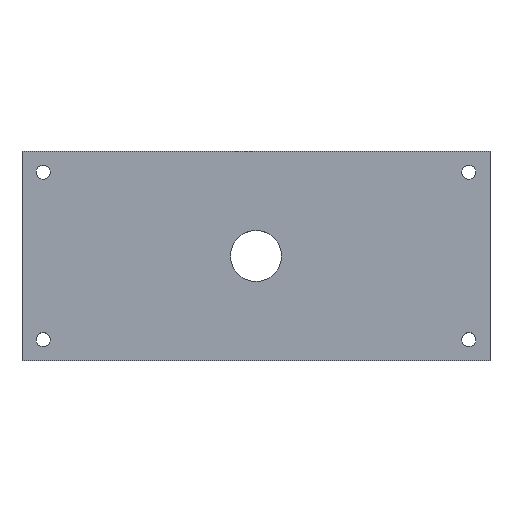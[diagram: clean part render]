
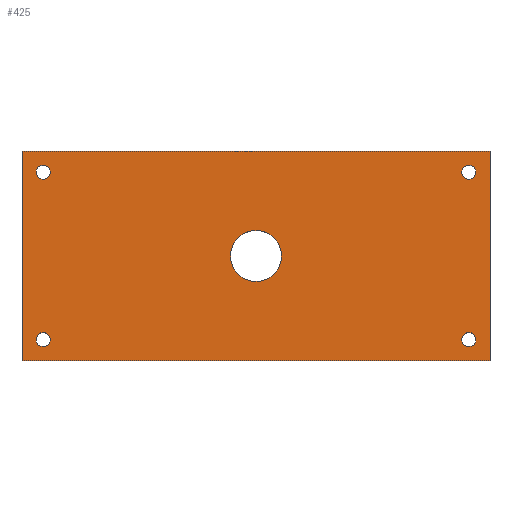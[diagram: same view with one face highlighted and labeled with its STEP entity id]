
A CAD part, top view. The second image highlights one B-rep face of the part: STEP entity #425.
In plain terms, the highlighted planar face has unit normal (0, 0, 1).
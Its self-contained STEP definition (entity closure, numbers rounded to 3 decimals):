
#3 = CARTESIAN_POINT ( 'NONE',  ( -13.341, 0., 2.5 ) ) ;
#7 = DIRECTION ( 'NONE',  ( 0., 0., 1. ) ) ;
#15 = CARTESIAN_POINT ( 'NONE',  ( 19.659, -14.75, 2.5 ) ) ;
#19 = EDGE_CURVE ( 'NONE', #450, #510, #560, .T. ) ;
#35 = CARTESIAN_POINT ( 'NONE',  ( 23.409, 18.5, 2.5 ) ) ;
#46 = DIRECTION ( 'NONE',  ( 0., 0., 1. ) ) ;
#52 = AXIS2_PLACEMENT_3D ( 'NONE', #563, #478, #85 ) ;
#54 = ORIENTED_EDGE ( 'NONE', *, *, #316, .T. ) ;
#56 = DIRECTION ( 'NONE',  ( 1., 0., 0. ) ) ;
#58 = CARTESIAN_POINT ( 'NONE',  ( -59.091, 18.5, 2.5 ) ) ;
#65 = EDGE_LOOP ( 'NONE', ( #127, #54, #598, #449 ) ) ;
#71 = CARTESIAN_POINT ( 'NONE',  ( 18.409, 14.75, 2.5 ) ) ;
#73 = ORIENTED_EDGE ( 'NONE', *, *, #525, .F. ) ;
#84 = VERTEX_POINT ( 'NONE', #236 ) ;
#85 = DIRECTION ( 'NONE',  ( 1., 0., 0. ) ) ;
#89 = DIRECTION ( 'NONE',  ( 0., 0., 1. ) ) ;
#97 = VECTOR ( 'NONE', #253, 1000. ) ;
#102 = EDGE_LOOP ( 'NONE', ( #528, #600 ) ) ;
#105 = CARTESIAN_POINT ( 'NONE',  ( -22.341, 0., 2.5 ) ) ;
#110 = EDGE_CURVE ( 'NONE', #486, #164, #157, .T. ) ;
#113 = CIRCLE ( 'NONE', #470, 1.25 ) ;
#116 = EDGE_LOOP ( 'NONE', ( #171, #284 ) ) ;
#122 = DIRECTION ( 'NONE',  ( 0., 0., 1. ) ) ;
#125 = CARTESIAN_POINT ( 'NONE',  ( -55.341, 14.75, 2.5 ) ) ;
#127 = ORIENTED_EDGE ( 'NONE', *, *, #110, .T. ) ;
#140 = AXIS2_PLACEMENT_3D ( 'NONE', #254, #576, #309 ) ;
#148 = EDGE_CURVE ( 'NONE', #510, #486, #441, .T. ) ;
#149 = CARTESIAN_POINT ( 'NONE',  ( -54.091, 14.75, 2.5 ) ) ;
#156 = CARTESIAN_POINT ( 'NONE',  ( 19.659, -14.75, 2.5 ) ) ;
#157 = LINE ( 'NONE', #58, #206 ) ;
#158 = DIRECTION ( 'NONE',  ( 1., 0., 0. ) ) ;
#164 = VERTEX_POINT ( 'NONE', #523 ) ;
#166 = CARTESIAN_POINT ( 'NONE',  ( -59.091, 18.5, 2.5 ) ) ;
#167 = EDGE_CURVE ( 'NONE', #496, #476, #296, .T. ) ;
#169 = EDGE_CURVE ( 'NONE', #173, #518, #587, .T. ) ;
#171 = ORIENTED_EDGE ( 'NONE', *, *, #434, .F. ) ;
#172 = VERTEX_POINT ( 'NONE', #300 ) ;
#173 = VERTEX_POINT ( 'NONE', #370 ) ;
#177 = DIRECTION ( 'NONE',  ( 1., 0., 0. ) ) ;
#184 = EDGE_LOOP ( 'NONE', ( #325, #202 ) ) ;
#187 = DIRECTION ( 'NONE',  ( -1., 0., 0. ) ) ;
#190 = AXIS2_PLACEMENT_3D ( 'NONE', #605, #218, #158 ) ;
#195 = FACE_BOUND ( 'NONE', #116, .T. ) ;
#197 = CARTESIAN_POINT ( 'NONE',  ( -17.841, 0., 2.5 ) ) ;
#199 = DIRECTION ( 'NONE',  ( 0., 0., 1. ) ) ;
#202 = ORIENTED_EDGE ( 'NONE', *, *, #169, .F. ) ;
#203 = ORIENTED_EDGE ( 'NONE', *, *, #304, .F. ) ;
#206 = VECTOR ( 'NONE', #593, 1000. ) ;
#207 = CARTESIAN_POINT ( 'NONE',  ( 18.409, -14.75, 2.5 ) ) ;
#212 = ORIENTED_EDGE ( 'NONE', *, *, #589, .F. ) ;
#218 = DIRECTION ( 'NONE',  ( 0., 0., 1. ) ) ;
#222 = AXIS2_PLACEMENT_3D ( 'NONE', #15, #349, #429 ) ;
#226 = EDGE_LOOP ( 'NONE', ( #436, #73 ) ) ;
#236 = CARTESIAN_POINT ( 'NONE',  ( 20.909, 14.75, 2.5 ) ) ;
#243 = VERTEX_POINT ( 'NONE', #149 ) ;
#247 = AXIS2_PLACEMENT_3D ( 'NONE', #541, #288, #56 ) ;
#251 = EDGE_CURVE ( 'NONE', #476, #496, #293, .T. ) ;
#253 = DIRECTION ( 'NONE',  ( 1., 0., 0. ) ) ;
#254 = CARTESIAN_POINT ( 'NONE',  ( 19.659, 14.75, 2.5 ) ) ;
#255 = DIRECTION ( 'NONE',  ( 1., 0., 0. ) ) ;
#266 = EDGE_CURVE ( 'NONE', #389, #84, #330, .T. ) ;
#267 = VECTOR ( 'NONE', #465, 1000. ) ;
#276 = VERTEX_POINT ( 'NONE', #586 ) ;
#284 = ORIENTED_EDGE ( 'NONE', *, *, #336, .F. ) ;
#288 = DIRECTION ( 'NONE',  ( 0., 0., 1. ) ) ;
#293 = CIRCLE ( 'NONE', #351, 4.5 ) ;
#296 = CIRCLE ( 'NONE', #190, 4.5 ) ;
#300 = CARTESIAN_POINT ( 'NONE',  ( -54.091, -14.75, 2.5 ) ) ;
#304 = EDGE_CURVE ( 'NONE', #172, #396, #113, .T. ) ;
#309 = DIRECTION ( 'NONE',  ( 1., 0., 0. ) ) ;
#311 = AXIS2_PLACEMENT_3D ( 'NONE', #339, #89, #505 ) ;
#315 = CARTESIAN_POINT ( 'NONE',  ( 19.659, 14.75, 2.5 ) ) ;
#316 = EDGE_CURVE ( 'NONE', #164, #450, #468, .T. ) ;
#325 = ORIENTED_EDGE ( 'NONE', *, *, #482, .F. ) ;
#326 = FACE_BOUND ( 'NONE', #102, .T. ) ;
#330 = CIRCLE ( 'NONE', #488, 1.25 ) ;
#336 = EDGE_CURVE ( 'NONE', #243, #276, #448, .T. ) ;
#338 = DIRECTION ( 'NONE',  ( 1., 0., 0. ) ) ;
#339 = CARTESIAN_POINT ( 'NONE',  ( -55.341, -14.75, 2.5 ) ) ;
#344 = CIRCLE ( 'NONE', #247, 1.25 ) ;
#349 = DIRECTION ( 'NONE',  ( 0., 0., 1. ) ) ;
#350 = FACE_OUTER_BOUND ( 'NONE', #65, .T. ) ;
#351 = AXIS2_PLACEMENT_3D ( 'NONE', #197, #7, #338 ) ;
#369 = CARTESIAN_POINT ( 'NONE',  ( 23.409, 18.5, 2.5 ) ) ;
#370 = CARTESIAN_POINT ( 'NONE',  ( 20.909, -14.75, 2.5 ) ) ;
#380 = FACE_BOUND ( 'NONE', #601, .T. ) ;
#389 = VERTEX_POINT ( 'NONE', #71 ) ;
#396 = VERTEX_POINT ( 'NONE', #423 ) ;
#399 = DIRECTION ( 'NONE',  ( 0., 0., 1. ) ) ;
#411 = CIRCLE ( 'NONE', #311, 1.25 ) ;
#423 = CARTESIAN_POINT ( 'NONE',  ( -56.591, -14.75, 2.5 ) ) ;
#425 = ADVANCED_FACE ( 'NONE', ( #507, #503, #350, #380, #195, #326 ), #544, .T. ) ;
#429 = DIRECTION ( 'NONE',  ( 1., 0., 0. ) ) ;
#434 = EDGE_CURVE ( 'NONE', #276, #243, #344, .T. ) ;
#436 = ORIENTED_EDGE ( 'NONE', *, *, #266, .F. ) ;
#439 = CARTESIAN_POINT ( 'NONE',  ( 23.409, -18.5, 2.5 ) ) ;
#441 = LINE ( 'NONE', #166, #461 ) ;
#448 = CIRCLE ( 'NONE', #492, 1.25 ) ;
#449 = ORIENTED_EDGE ( 'NONE', *, *, #148, .T. ) ;
#450 = VERTEX_POINT ( 'NONE', #439 ) ;
#461 = VECTOR ( 'NONE', #187, 1000. ) ;
#465 = DIRECTION ( 'NONE',  ( 0., 1., 0. ) ) ;
#468 = LINE ( 'NONE', #551, #97 ) ;
#470 = AXIS2_PLACEMENT_3D ( 'NONE', #574, #46, #531 ) ;
#476 = VERTEX_POINT ( 'NONE', #3 ) ;
#478 = DIRECTION ( 'NONE',  ( 0., 0., 1. ) ) ;
#482 = EDGE_CURVE ( 'NONE', #518, #173, #498, .T. ) ;
#486 = VERTEX_POINT ( 'NONE', #499 ) ;
#488 = AXIS2_PLACEMENT_3D ( 'NONE', #315, #122, #255 ) ;
#492 = AXIS2_PLACEMENT_3D ( 'NONE', #125, #199, #177 ) ;
#493 = CIRCLE ( 'NONE', #140, 1.25 ) ;
#496 = VERTEX_POINT ( 'NONE', #105 ) ;
#498 = CIRCLE ( 'NONE', #596, 1.25 ) ;
#499 = CARTESIAN_POINT ( 'NONE',  ( -59.091, 18.5, 2.5 ) ) ;
#503 = FACE_BOUND ( 'NONE', #184, .T. ) ;
#505 = DIRECTION ( 'NONE',  ( 1., 0., 0. ) ) ;
#507 = FACE_BOUND ( 'NONE', #226, .T. ) ;
#510 = VERTEX_POINT ( 'NONE', #369 ) ;
#518 = VERTEX_POINT ( 'NONE', #207 ) ;
#523 = CARTESIAN_POINT ( 'NONE',  ( -59.091, -18.5, 2.5 ) ) ;
#525 = EDGE_CURVE ( 'NONE', #84, #389, #493, .T. ) ;
#528 = ORIENTED_EDGE ( 'NONE', *, *, #167, .F. ) ;
#531 = DIRECTION ( 'NONE',  ( 1., 0., 0. ) ) ;
#541 = CARTESIAN_POINT ( 'NONE',  ( -55.341, 14.75, 2.5 ) ) ;
#542 = DIRECTION ( 'NONE',  ( 1., 0., 0. ) ) ;
#544 = PLANE ( 'NONE',  #52 ) ;
#551 = CARTESIAN_POINT ( 'NONE',  ( -59.091, -18.5, 2.5 ) ) ;
#560 = LINE ( 'NONE', #35, #267 ) ;
#563 = CARTESIAN_POINT ( 'NONE',  ( 0., 0., 2.5 ) ) ;
#574 = CARTESIAN_POINT ( 'NONE',  ( -55.341, -14.75, 2.5 ) ) ;
#576 = DIRECTION ( 'NONE',  ( 0., 0., 1. ) ) ;
#586 = CARTESIAN_POINT ( 'NONE',  ( -56.591, 14.75, 2.5 ) ) ;
#587 = CIRCLE ( 'NONE', #222, 1.25 ) ;
#589 = EDGE_CURVE ( 'NONE', #396, #172, #411, .T. ) ;
#593 = DIRECTION ( 'NONE',  ( 0., -1., 0. ) ) ;
#596 = AXIS2_PLACEMENT_3D ( 'NONE', #156, #399, #542 ) ;
#598 = ORIENTED_EDGE ( 'NONE', *, *, #19, .T. ) ;
#600 = ORIENTED_EDGE ( 'NONE', *, *, #251, .F. ) ;
#601 = EDGE_LOOP ( 'NONE', ( #212, #203 ) ) ;
#605 = CARTESIAN_POINT ( 'NONE',  ( -17.841, 0., 2.5 ) ) ;
